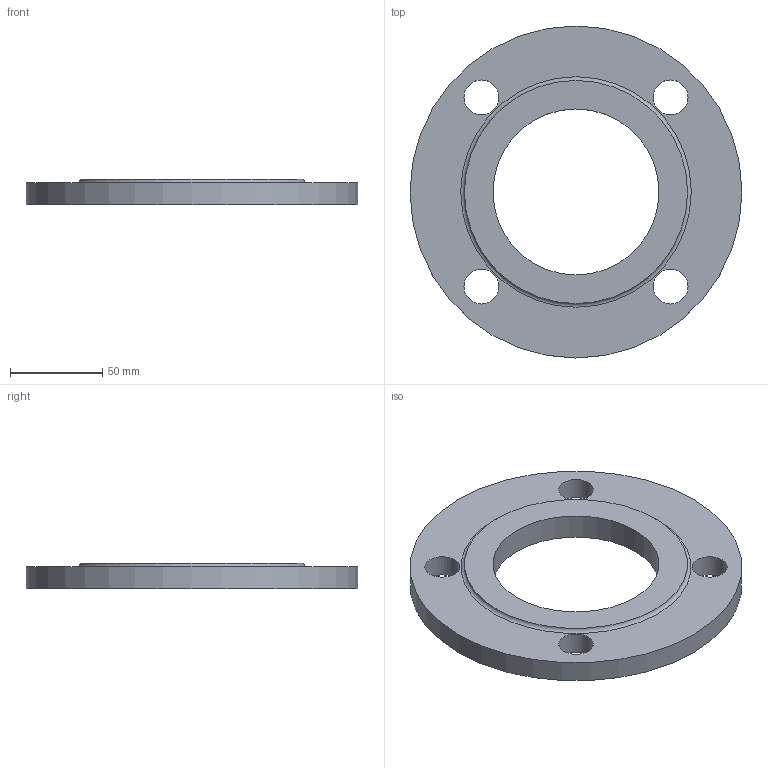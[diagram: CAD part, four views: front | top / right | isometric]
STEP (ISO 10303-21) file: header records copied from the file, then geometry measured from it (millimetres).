
FILE_DESCRIPTION(/* description */ (''),/* implementation_level */ '2;1');
FILE_NAME(/* name */ 'C:\Users\D\Documents\Inventor\HP\JIS\フランジ\JIS 5k sop rf\jis5k-sop-rf-80.stp',/* time_stamp */ '2024-09-12T17:02:56+09:00',/* author */ ('D'),/* organization */ (''),/* preprocessor_version */ 'ST-DEVELOPER v18',/* originating_system */ 'Autodesk Inventor 2020',/* authorisation */ '');
FILE_SCHEMA (('AUTOMOTIVE_DESIGN { 1 0 10303 214 3 1 1 }'));
Length unit declared in the file: millimetre
Products named in the file (1): jis5k-sop-rf-10
Bounding box: 180 x 180 x 14 mm (x, y, z)
Volume: 226016 mm3; surface area: 49947.2 mm2
Topology: 1 solids, 1 shells, 10 faces, 26 edges, 19 vertices
Faces by surface type: cylinder 6, plane 3, torus 1
Full cylindrical faces by diameter (mm): 19 x4, 90 x1, 180 x1
Entity records: 391 total; most frequent: DIRECTION 68, CARTESIAN_POINT 56, ORIENTED_EDGE 52, AXIS2_PLACEMENT_3D 31, EDGE_CURVE 26, EDGE_LOOP 21, CIRCLE 20, VERTEX_POINT 19
